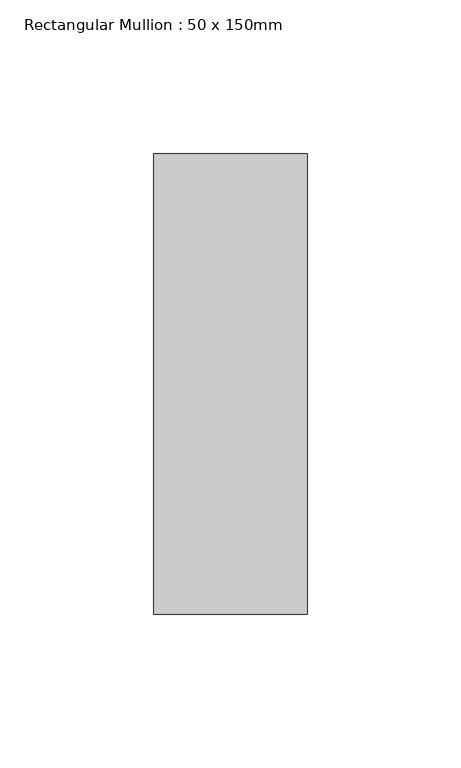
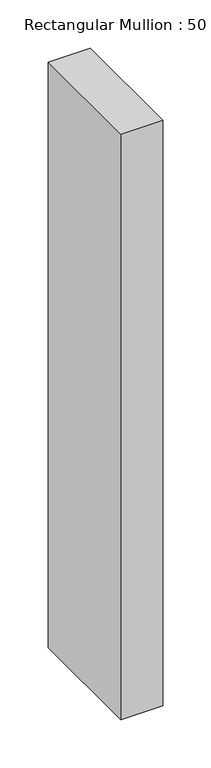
"""IFC4 building model written with IfcOpenShell, lengths in millimetres: member geometry, Rectangular Mullion : 50 x 150mm."""

from ifc_helpers import new_model, si_unit, frame, origin, place, context, project, spatial, polyline, outline, extrude, source, transform, mapped, element, save


def rectangular_mullion_50_x_150mm_effd6c6d(model_context):
    return source(origin(), model_context, "Body", "SweptSolid", [
        extrude(outline(polyline([(25.0, 75.0), (25.0, -75.0), (-25.0, -75.0), (-25.0, 75.0), (25.0, 75.0)])), frame((0.0, 0.0, -740.0), z_axis=(0.0, 0.0, 1.0), x_axis=(1.0, 0.0, 0.0)), (0.0, 0.0, 1.0), 740.0),
    ])


if __name__ == "__main__":
    model = new_model("IFC4")
    model_context = context("Model", 3, world=origin())
    ifc_project = project(units=[si_unit("LENGTHUNIT", "METRE", prefix="MILLI")], contexts=[model_context])
    site = spatial("IfcSite", under=ifc_project)
    building = spatial("IfcBuilding", under=site)
    placement = place(None, origin())
    rectangular_mullion_50_x_150mm_shape = rectangular_mullion_50_x_150mm_effd6c6d(model_context)
    element("IfcMember", 1, ObjectType="Rectangular Mullion : 50 x 150mm", at=placement, inside=building, context=model_context, shape_type="MappedRepresentation", body=[
        mapped(rectangular_mullion_50_x_150mm_shape, transform((0.0, 0.0, 0.0), x_axis=(1.0, 0.0, 0.0), y_axis=(0.0, 1.0, 0.0), z_axis=(0.0, 0.0, 1.0))),
    ])
    save(model, "model.ifc")
